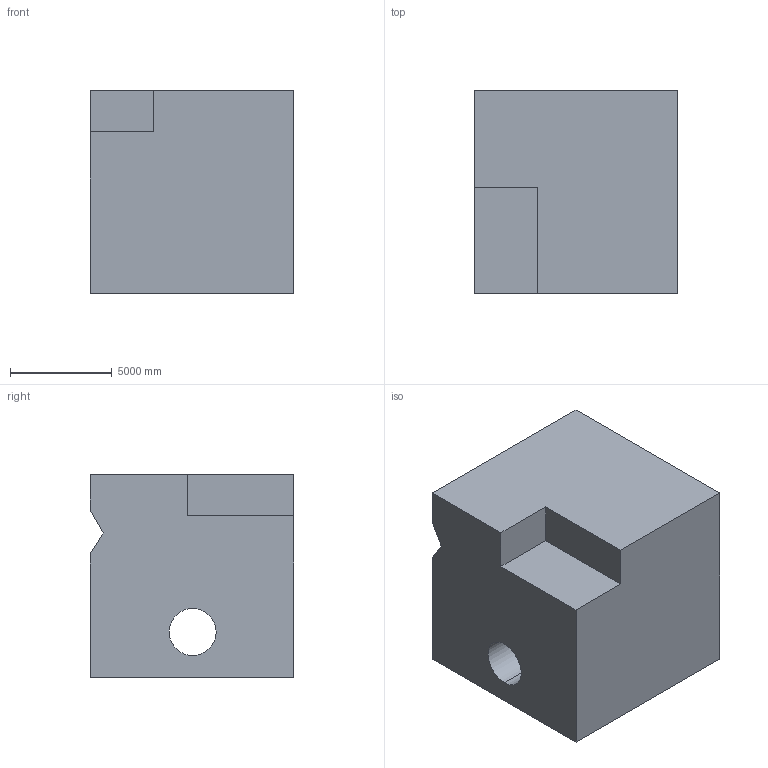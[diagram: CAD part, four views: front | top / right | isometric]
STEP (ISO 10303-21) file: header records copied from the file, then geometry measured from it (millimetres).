
FILE_DESCRIPTION (( 'STEP AP203' ), '1' );
FILE_NAME ('1300.STEP', '2022-08-25T14:51:02', ( 'user' ), ( '' ), 'SwSTEP 2.0', 'SolidWorks 2021', '' );
FILE_SCHEMA (( 'CONFIG_CONTROL_DESIGN' ));
Length unit declared in the file: centimetre
Products named in the file (1): 1300
Bounding box: 10000 x 10000 x 10000 mm (x, y, z)
Volume: 907279052839.1 mm3; surface area: 673022524.3 mm2
Topology: 1 solids, 1 shells, 18 faces, 47 edges, 31 vertices
Faces by surface type: plane 15, cylinder 3
Entity records: 630 total; most frequent: CARTESIAN_POINT 97, ORIENTED_EDGE 94, DIRECTION 91, EDGE_CURVE 47, VECTOR 41, LINE 41, VERTEX_POINT 31, AXIS2_PLACEMENT_3D 25
